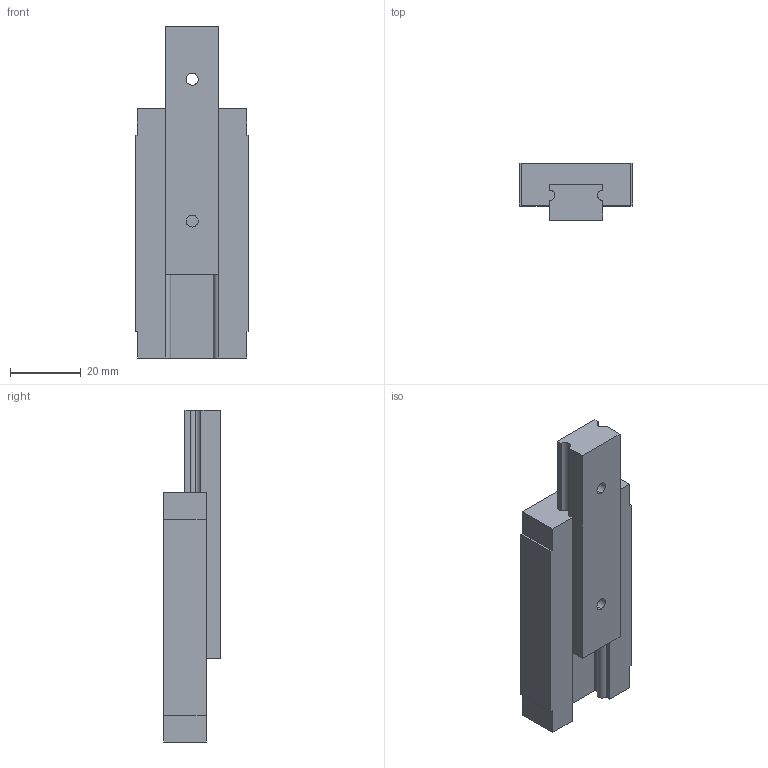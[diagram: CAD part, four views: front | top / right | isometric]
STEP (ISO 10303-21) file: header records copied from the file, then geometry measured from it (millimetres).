
FILE_DESCRIPTION (( 'STEP AP203' ), '1' );
FILE_NAME ('MCM 15LL.STEP', '2020-08-14T05:32:25', ( '' ), ( '' ), 'SwSTEP 2.0', 'SolidWorks 2014', '' );
FILE_SCHEMA (( 'CONFIG_CONTROL_DESIGN' ));
Length unit declared in the file: inch
Products named in the file (3): MCM TABLE 15 - 70; MCM 15LL; mcm15 LL
Assembly tree (2 placements, depth 2):
  MCM 15LL
    MCM TABLE 15 - 70
    mcm15 LL
Bounding box: 32 x 16.03 x 93.61 mm (x, y, z)
Volume: 30387.1 mm3; surface area: 12382.7 mm2
Topology: 2 solids, 2 shells, 68 faces, 174 edges, 106 vertices
Faces by surface type: plane 30, cylinder 26, cone 12
Entity records: 2289 total; most frequent: DIRECTION 360, CARTESIAN_POINT 341, ORIENTED_EDGE 324, EDGE_CURVE 162, AXIS2_PLACEMENT_3D 125, LINE 110, VECTOR 110, VERTEX_POINT 106
